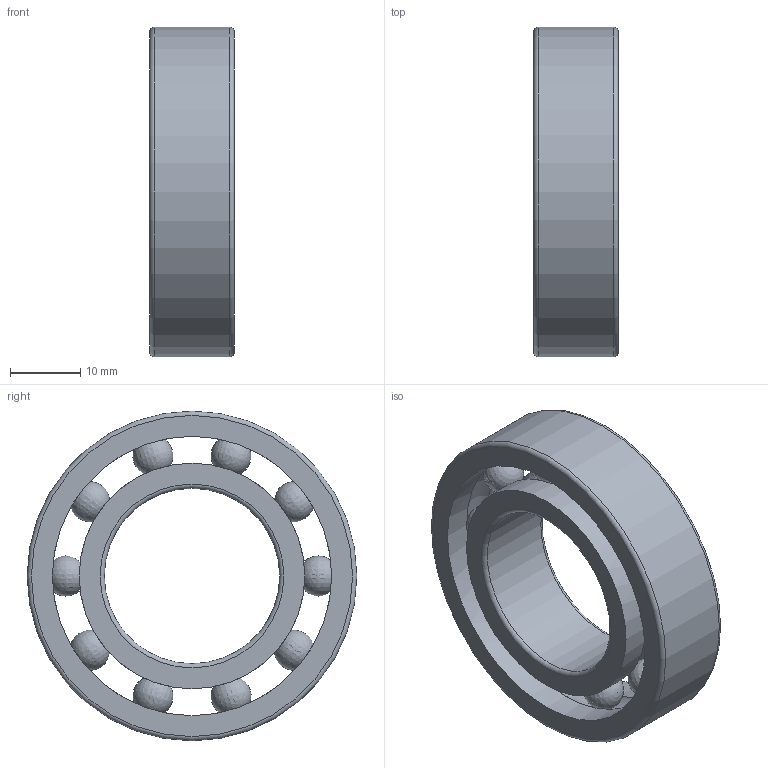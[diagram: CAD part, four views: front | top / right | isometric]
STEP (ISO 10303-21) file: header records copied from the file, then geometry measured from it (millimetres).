
FILE_DESCRIPTION(/* description */ ('깊은 그루브 볼 베어링'),/* implementation_level */ '2;1');
FILE_NAME(/* name */ '',/* time_stamp */ '2025-11-19T16:41:38+09:00',/* author */ ('jhkim'),/* organization */ (''),/* preprocessor_version */ 'ST-DEVELOPER v20.1',/* originating_system */ 'Autodesk Inventor 2026',/* authorisation */ '');
FILE_SCHEMA (('AUTOMOTIVE_DESIGN { 1 0 10303 214 3 1 1 }'));
Length unit declared in the file: millimetre
Products named in the file (1): 깊은 홈 볼 베어링 
6005
Bounding box: 12 x 47 x 47 mm (x, y, z)
Volume: 10048.9 mm3; surface area: 8084.7 mm2
Topology: 12 solids, 12 shells, 44 faces, 116 edges, 76 vertices
Faces by surface type: torus 24, sphere 10, cylinder 6, plane 4
Full cylindrical faces by diameter (mm): 25 x1, 32.172 x2, 39.828 x2, 47 x1
Entity records: 1638 total; most frequent: DIRECTION 316, CARTESIAN_POINT 277, ORIENTED_EDGE 232, AXIS2_PLACEMENT_3D 155, VERTEX_POINT 116, EDGE_CURVE 116, CIRCLE 110, EDGE_LOOP 68
